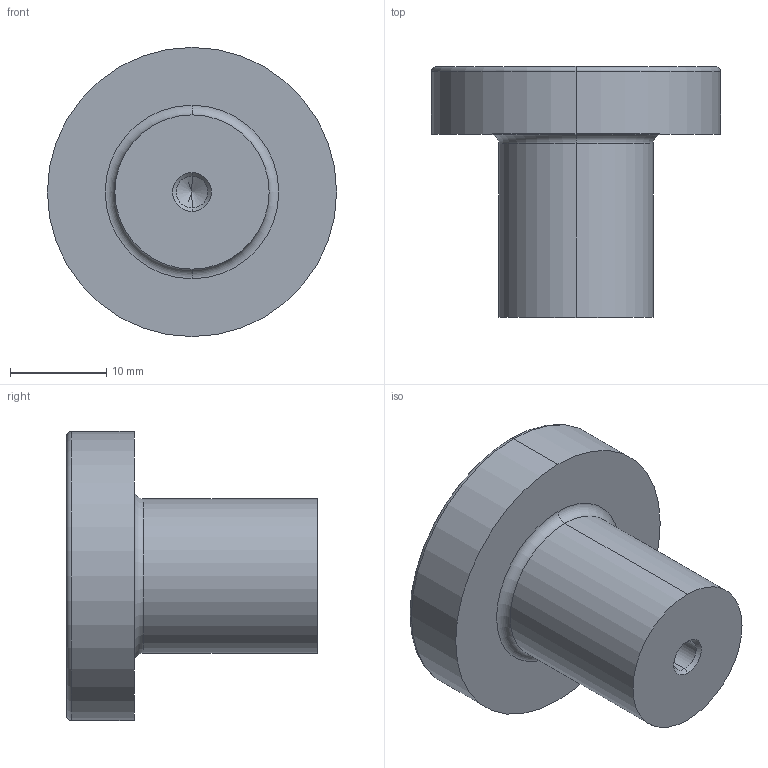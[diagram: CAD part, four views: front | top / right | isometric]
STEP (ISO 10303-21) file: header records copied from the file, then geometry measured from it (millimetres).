
FILE_DESCRIPTION (( 'STEP AP214' ), '1' );
FILE_NAME ('242530030.STEP', '2020-03-18T13:20:42', ( '' ), ( '' ), 'SwSTEP 2.0', 'SolidWorks 2020', '' );
FILE_SCHEMA (( 'AUTOMOTIVE_DESIGN' ));
Length unit declared in the file: millimetre
Products named in the file (1): 242530030
Bounding box: 30 x 26 x 30 mm (x, y, z)
Volume: 8647.1 mm3; surface area: 3136.9 mm2
Topology: 1 solids, 1 shells, 17 faces, 34 edges, 19 vertices
Faces by surface type: cylinder 6, cone 4, torus 4, plane 3
Entity records: 488 total; most frequent: DIRECTION 90, CARTESIAN_POINT 69, ORIENTED_EDGE 64, AXIS2_PLACEMENT_3D 40, EDGE_CURVE 32, CIRCLE 22, EDGE_LOOP 19, VERTEX_POINT 19
